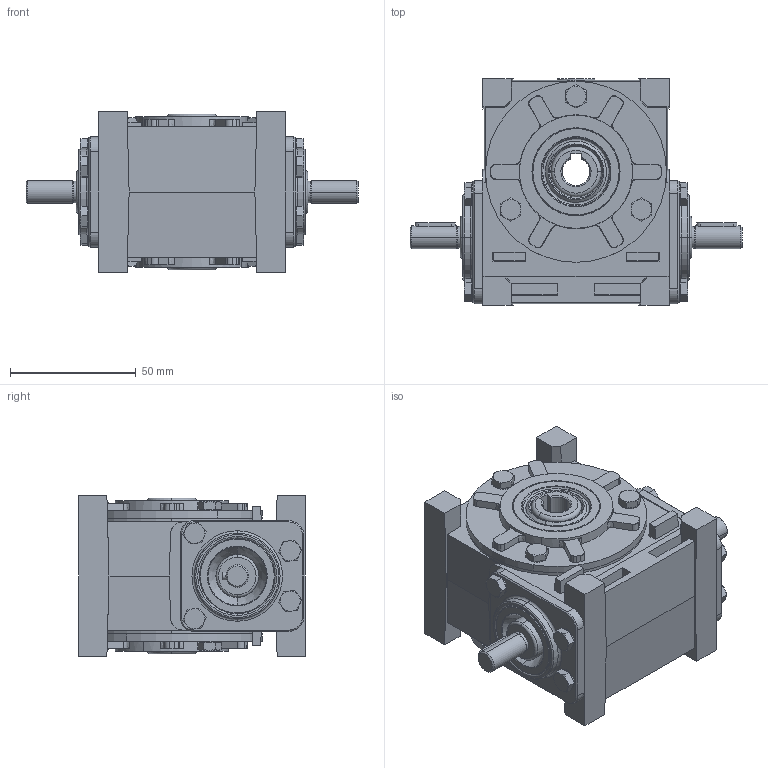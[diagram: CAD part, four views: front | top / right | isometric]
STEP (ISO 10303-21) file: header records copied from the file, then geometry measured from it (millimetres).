
FILE_DESCRIPTION (( 'STEP AP203' ), '1' );
FILE_NAME ('MRA-02_WBS2_3D.STEP', '2020-04-30T09:32:53', ( '' ), ( '' ), 'SwSTEP 2.0', 'SolidWorks 2013', '' );
FILE_SCHEMA (( 'CONFIG_CONTROL_DESIGN' ));
Length unit declared in the file: millimetre
Products named in the file (10): Simmering 20x35x7 AO; hex screw gradeab_iso_ISO 4017 - M5 x 10-N; Pokrywa 026 v2_MR.026.02.0.12; Simmering 17x30x7; Wpust 3x3; Korpus 21_S.026.01.1.1.01; MRA-02_WBS2_3D; Œlimak RA02_MRA.002.03.3.01; Œlimacznica 27; Pokrywa 22
Assembly tree (27 placements, depth 2):
  MRA-02_WBS2_3D
    Korpus 21_S.026.01.1.1.01
    Œlimak RA02_MRA.002.03.3.01
    Œlimacznica 27
    Pokrywa 22  x2
    Simmering 20x35x7 AO  x2
    hex screw gradeab_iso_ISO 4017 - M5 x 10-N  x14
    Pokrywa 026 v2_MR.026.02.0.12  x2
    Simmering 17x30x7  x2
    Wpust 3x3  x2
Bounding box: 132 x 90 x 64 mm (x, y, z)
Volume: 216049.8 mm3; surface area: 115574.4 mm2
Topology: 27 solids, 27 shells, 1175 faces, 2668 edges, 1594 vertices
Faces by surface type: plane 461, cylinder 306, cone 276, bspline 76, torus 56
Entity records: 20357 total; most frequent: CARTESIAN_POINT 5187, DIRECTION 2943, ORIENTED_EDGE 2766, EDGE_CURVE 1383, AXIS2_PLACEMENT_3D 1110, VERTEX_POINT 852, LINE 723, VECTOR 723
